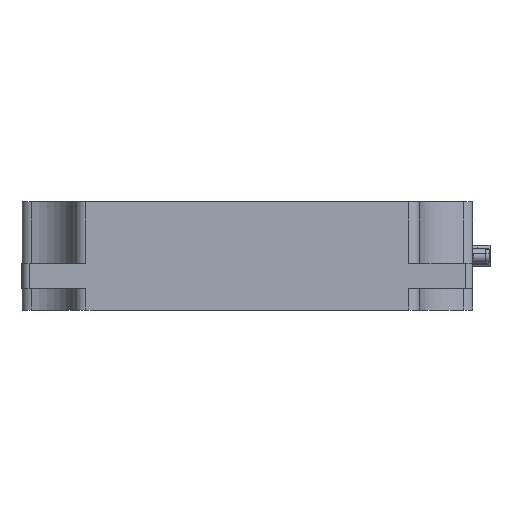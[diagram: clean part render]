
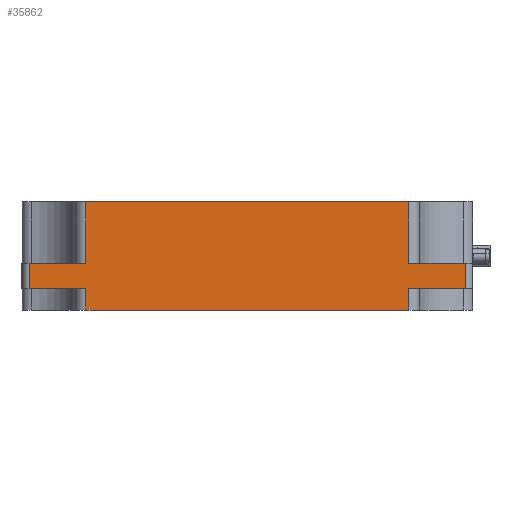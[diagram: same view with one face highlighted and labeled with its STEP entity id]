
A CAD part, left-side view. The second image highlights one B-rep face of the part: STEP entity #35862.
In plain terms, the highlighted planar face has unit normal (-1, 0, 0).
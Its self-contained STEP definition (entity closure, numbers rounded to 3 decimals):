
#237 = LINE ( 'NONE', #4415, #34922 ) ;
#417 = EDGE_CURVE ( 'NONE', #19205, #23577, #237, .T. ) ;
#593 = CARTESIAN_POINT ( 'NONE',  ( -95.831, -50.334, 165. ) ) ;
#981 = CARTESIAN_POINT ( 'NONE',  ( -95.831, -66.083, 148. ) ) ;
#1195 = PLANE ( 'NONE',  #15658 ) ;
#1572 = VECTOR ( 'NONE', #16261, 1000. ) ;
#1665 = VECTOR ( 'NONE', #14480, 1000. ) ;
#2513 = ORIENTED_EDGE ( 'NONE', *, *, #35790, .T. ) ;
#2694 = DIRECTION ( 'NONE',  ( 0., -1., 0. ) ) ;
#3298 = LINE ( 'NONE', #23923, #21186 ) ;
#3590 = EDGE_CURVE ( 'NONE', #22943, #4662, #42425, .T. ) ;
#3663 = EDGE_CURVE ( 'NONE', #32798, #40954, #20578, .T. ) ;
#4415 = CARTESIAN_POINT ( 'NONE',  ( -95.831, -50.334, 165. ) ) ;
#4662 = VERTEX_POINT ( 'NONE', #26730 ) ;
#4669 = VERTEX_POINT ( 'NONE', #23601 ) ;
#5511 = LINE ( 'NONE', #11198, #41357 ) ;
#5721 = CARTESIAN_POINT ( 'NONE',  ( -95.831, -50.334, 141. ) ) ;
#5817 = ORIENTED_EDGE ( 'NONE', *, *, #19783, .T. ) ;
#7377 = FACE_OUTER_BOUND ( 'NONE', #33373, .T. ) ;
#7655 = VECTOR ( 'NONE', #11684, 1000. ) ;
#7914 = ORIENTED_EDGE ( 'NONE', *, *, #20101, .T. ) ;
#7962 = VECTOR ( 'NONE', #12473, 1000. ) ;
#8405 = DIRECTION ( 'NONE',  ( 1., 0., 0. ) ) ;
#10418 = EDGE_CURVE ( 'NONE', #27366, #4669, #42724, .T. ) ;
#11198 = CARTESIAN_POINT ( 'NONE',  ( -95.831, 56.917, 148. ) ) ;
#11684 = DIRECTION ( 'NONE',  ( 0., -1., 0. ) ) ;
#12473 = DIRECTION ( 'NONE',  ( 0., 1., 0. ) ) ;
#13468 = CARTESIAN_POINT ( 'NONE',  ( -95.831, 56.917, 165. ) ) ;
#13751 = CARTESIAN_POINT ( 'NONE',  ( -95.831, -50.334, 135. ) ) ;
#14480 = DIRECTION ( 'NONE',  ( 0., -1., 0. ) ) ;
#14702 = EDGE_CURVE ( 'NONE', #32798, #23577, #41150, .T. ) ;
#14783 = DIRECTION ( 'NONE',  ( 0., -1., 0. ) ) ;
#15658 = AXIS2_PLACEMENT_3D ( 'NONE', #26011, #8405, #33372 ) ;
#16103 = ORIENTED_EDGE ( 'NONE', *, *, #40501, .T. ) ;
#16261 = DIRECTION ( 'NONE',  ( 0., 0., 1. ) ) ;
#16892 = VECTOR ( 'NONE', #22137, 1000. ) ;
#17485 = LINE ( 'NONE', #44532, #7962 ) ;
#18558 = CARTESIAN_POINT ( 'NONE',  ( -95.831, -66.083, 141. ) ) ;
#18876 = CARTESIAN_POINT ( 'NONE',  ( -95.831, 56.917, 148. ) ) ;
#19205 = VERTEX_POINT ( 'NONE', #13751 ) ;
#19703 = CARTESIAN_POINT ( 'NONE',  ( -95.831, 39.169, 165. ) ) ;
#19783 = EDGE_CURVE ( 'NONE', #4669, #19205, #30109, .T. ) ;
#20101 = EDGE_CURVE ( 'NONE', #22943, #39101, #3298, .T. ) ;
#20578 = LINE ( 'NONE', #25592, #1572 ) ;
#21030 = VERTEX_POINT ( 'NONE', #38225 ) ;
#21186 = VECTOR ( 'NONE', #31089, 1000. ) ;
#21228 = CARTESIAN_POINT ( 'NONE',  ( -95.831, 56.917, 141. ) ) ;
#22137 = DIRECTION ( 'NONE',  ( 0., 0., 1. ) ) ;
#22515 = VECTOR ( 'NONE', #37171, 1000. ) ;
#22677 = ORIENTED_EDGE ( 'NONE', *, *, #23459, .F. ) ;
#22778 = ORIENTED_EDGE ( 'NONE', *, *, #3663, .T. ) ;
#22943 = VERTEX_POINT ( 'NONE', #19703 ) ;
#23041 = DIRECTION ( 'NONE',  ( 0., 0., -1. ) ) ;
#23357 = VECTOR ( 'NONE', #23041, 1000. ) ;
#23393 = ORIENTED_EDGE ( 'NONE', *, *, #25974, .F. ) ;
#23459 = EDGE_CURVE ( 'NONE', #27366, #40473, #17485, .T. ) ;
#23577 = VERTEX_POINT ( 'NONE', #5721 ) ;
#23601 = CARTESIAN_POINT ( 'NONE',  ( -95.831, 39.169, 135. ) ) ;
#23923 = CARTESIAN_POINT ( 'NONE',  ( -95.831, 39.169, 165. ) ) ;
#24809 = DIRECTION ( 'NONE',  ( 0., 1., 0. ) ) ;
#25023 = ORIENTED_EDGE ( 'NONE', *, *, #3590, .F. ) ;
#25592 = CARTESIAN_POINT ( 'NONE',  ( -95.831, -66.083, 165. ) ) ;
#25926 = ORIENTED_EDGE ( 'NONE', *, *, #10418, .T. ) ;
#25974 = EDGE_CURVE ( 'NONE', #29262, #39101, #5511, .T. ) ;
#26011 = CARTESIAN_POINT ( 'NONE',  ( -95.831, 56.917, 165. ) ) ;
#26730 = CARTESIAN_POINT ( 'NONE',  ( -95.831, -50.334, 165. ) ) ;
#27366 = VERTEX_POINT ( 'NONE', #29059 ) ;
#29059 = CARTESIAN_POINT ( 'NONE',  ( -95.831, 39.169, 141. ) ) ;
#29262 = VERTEX_POINT ( 'NONE', #36666 ) ;
#29318 = ORIENTED_EDGE ( 'NONE', *, *, #14702, .F. ) ;
#29884 = CARTESIAN_POINT ( 'NONE',  ( -95.831, 54.917, 141. ) ) ;
#30109 = LINE ( 'NONE', #43100, #1665 ) ;
#31089 = DIRECTION ( 'NONE',  ( 0., 0., -1. ) ) ;
#31932 = ORIENTED_EDGE ( 'NONE', *, *, #417, .T. ) ;
#32798 = VERTEX_POINT ( 'NONE', #18558 ) ;
#32847 = VECTOR ( 'NONE', #2694, 1000. ) ;
#32856 = LINE ( 'NONE', #37320, #23357 ) ;
#33372 = DIRECTION ( 'NONE',  ( 0., 0., -1. ) ) ;
#33373 = EDGE_LOOP ( 'NONE', ( #29318, #22778, #42940, #2513, #25023, #7914, #23393, #16103, #22677, #25926, #5817, #31932 ) ) ;
#34922 = VECTOR ( 'NONE', #36518, 1000. ) ;
#35790 = EDGE_CURVE ( 'NONE', #21030, #4662, #35884, .T. ) ;
#35862 = ADVANCED_FACE ( 'NONE', ( #7377 ), #1195, .F. ) ;
#35884 = LINE ( 'NONE', #593, #16892 ) ;
#36518 = DIRECTION ( 'NONE',  ( 0., 0., 1. ) ) ;
#36666 = CARTESIAN_POINT ( 'NONE',  ( -95.831, 54.917, 148. ) ) ;
#37171 = DIRECTION ( 'NONE',  ( 0., 0., -1. ) ) ;
#37320 = CARTESIAN_POINT ( 'NONE',  ( -95.831, 54.917, 165. ) ) ;
#37720 = CARTESIAN_POINT ( 'NONE',  ( -95.831, 39.169, 148. ) ) ;
#38225 = CARTESIAN_POINT ( 'NONE',  ( -95.831, -50.334, 148. ) ) ;
#38427 = LINE ( 'NONE', #18876, #7655 ) ;
#39101 = VERTEX_POINT ( 'NONE', #37720 ) ;
#40021 = VECTOR ( 'NONE', #24809, 1000. ) ;
#40473 = VERTEX_POINT ( 'NONE', #29884 ) ;
#40501 = EDGE_CURVE ( 'NONE', #29262, #40473, #32856, .T. ) ;
#40954 = VERTEX_POINT ( 'NONE', #981 ) ;
#41150 = LINE ( 'NONE', #21228, #40021 ) ;
#41357 = VECTOR ( 'NONE', #14783, 1000. ) ;
#41734 = EDGE_CURVE ( 'NONE', #21030, #40954, #38427, .T. ) ;
#42425 = LINE ( 'NONE', #13468, #32847 ) ;
#42724 = LINE ( 'NONE', #44224, #22515 ) ;
#42940 = ORIENTED_EDGE ( 'NONE', *, *, #41734, .F. ) ;
#43100 = CARTESIAN_POINT ( 'NONE',  ( -95.831, 56.917, 135. ) ) ;
#44224 = CARTESIAN_POINT ( 'NONE',  ( -95.831, 39.169, 165. ) ) ;
#44532 = CARTESIAN_POINT ( 'NONE',  ( -95.831, 56.917, 141. ) ) ;
